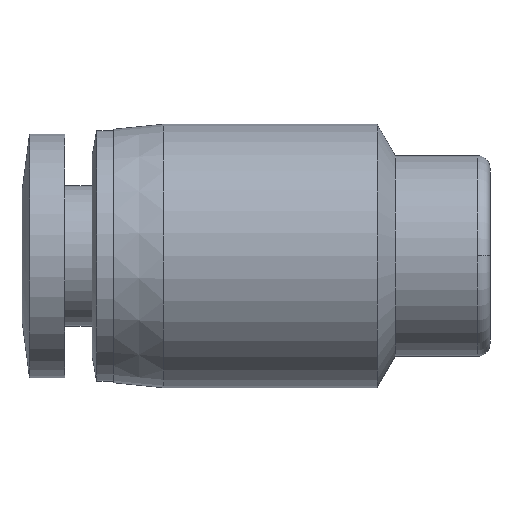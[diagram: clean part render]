
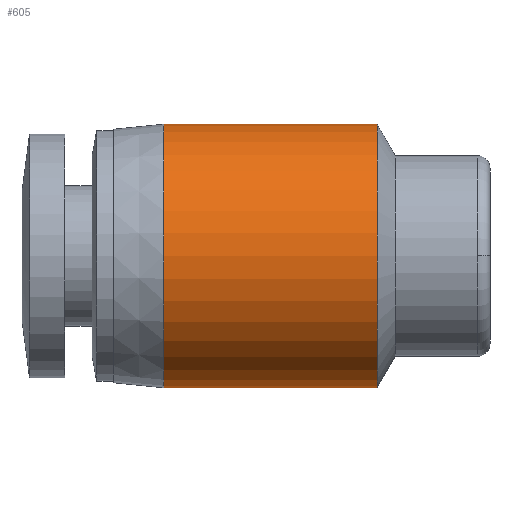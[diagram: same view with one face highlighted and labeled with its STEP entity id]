
A CAD part, top view. The second image highlights one B-rep face of the part: STEP entity #605.
In plain terms, the highlighted cylindrical face has radius 5.25 mm (diameter 10.5 mm), a partial arc.
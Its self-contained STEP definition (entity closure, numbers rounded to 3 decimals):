
#14 = DIRECTION ( 'NONE',  ( 0., 1., 0. ) ) ;
#42 = AXIS2_PLACEMENT_3D ( 'NONE', #629, #348, #14 ) ;
#72 = DIRECTION ( 'NONE',  ( 1., 0., 0. ) ) ;
#78 = AXIS2_PLACEMENT_3D ( 'NONE', #541, #809, #827 ) ;
#80 = ORIENTED_EDGE ( 'NONE', *, *, #837, .F. ) ;
#135 = VECTOR ( 'NONE', #72, 1000. ) ;
#171 = VERTEX_POINT ( 'NONE', #388 ) ;
#181 = CIRCLE ( 'NONE', #42, 5.25 ) ;
#201 = DIRECTION ( 'NONE',  ( 0., 1., 0. ) ) ;
#207 = VERTEX_POINT ( 'NONE', #811 ) ;
#225 = ORIENTED_EDGE ( 'NONE', *, *, #428, .F. ) ;
#226 = LINE ( 'NONE', #705, #135 ) ;
#267 = DIRECTION ( 'NONE',  ( 1., 0., 0. ) ) ;
#268 = CARTESIAN_POINT ( 'NONE',  ( -4.5, -5.25, 0. ) ) ;
#303 = CARTESIAN_POINT ( 'NONE',  ( -8.75, 5.25, 0. ) ) ;
#348 = DIRECTION ( 'NONE',  ( 1., 0., 0. ) ) ;
#388 = CARTESIAN_POINT ( 'NONE',  ( -13., -5.25, 0. ) ) ;
#428 = EDGE_CURVE ( 'NONE', #762, #755, #181, .T. ) ;
#458 = CIRCLE ( 'NONE', #78, 5.25 ) ;
#533 = EDGE_LOOP ( 'NONE', ( #723, #834, #225, #80 ) ) ;
#535 = CARTESIAN_POINT ( 'NONE',  ( -4.5, 5.25, 0. ) ) ;
#541 = CARTESIAN_POINT ( 'NONE',  ( -13., 0., 0. ) ) ;
#569 = VECTOR ( 'NONE', #768, 1000. ) ;
#605 = ADVANCED_FACE ( 'NONE', ( #806 ), #874, .T. ) ;
#629 = CARTESIAN_POINT ( 'NONE',  ( -4.5, 0., 0. ) ) ;
#705 = CARTESIAN_POINT ( 'NONE',  ( -8.75, -5.25, 0. ) ) ;
#722 = EDGE_CURVE ( 'NONE', #207, #171, #458, .T. ) ;
#723 = ORIENTED_EDGE ( 'NONE', *, *, #722, .T. ) ;
#751 = CARTESIAN_POINT ( 'NONE',  ( -8.75, 0., 0. ) ) ;
#753 = AXIS2_PLACEMENT_3D ( 'NONE', #751, #267, #201 ) ;
#755 = VERTEX_POINT ( 'NONE', #268 ) ;
#762 = VERTEX_POINT ( 'NONE', #535 ) ;
#763 = LINE ( 'NONE', #303, #569 ) ;
#768 = DIRECTION ( 'NONE',  ( 1., 0., 0. ) ) ;
#806 = FACE_OUTER_BOUND ( 'NONE', #533, .T. ) ;
#809 = DIRECTION ( 'NONE',  ( 1., 0., 0. ) ) ;
#811 = CARTESIAN_POINT ( 'NONE',  ( -13., 5.25, 0. ) ) ;
#827 = DIRECTION ( 'NONE',  ( 0., 1., 0. ) ) ;
#834 = ORIENTED_EDGE ( 'NONE', *, *, #843, .T. ) ;
#837 = EDGE_CURVE ( 'NONE', #207, #762, #763, .T. ) ;
#843 = EDGE_CURVE ( 'NONE', #171, #755, #226, .T. ) ;
#874 = CYLINDRICAL_SURFACE ( 'NONE', #753, 5.25 ) ;
